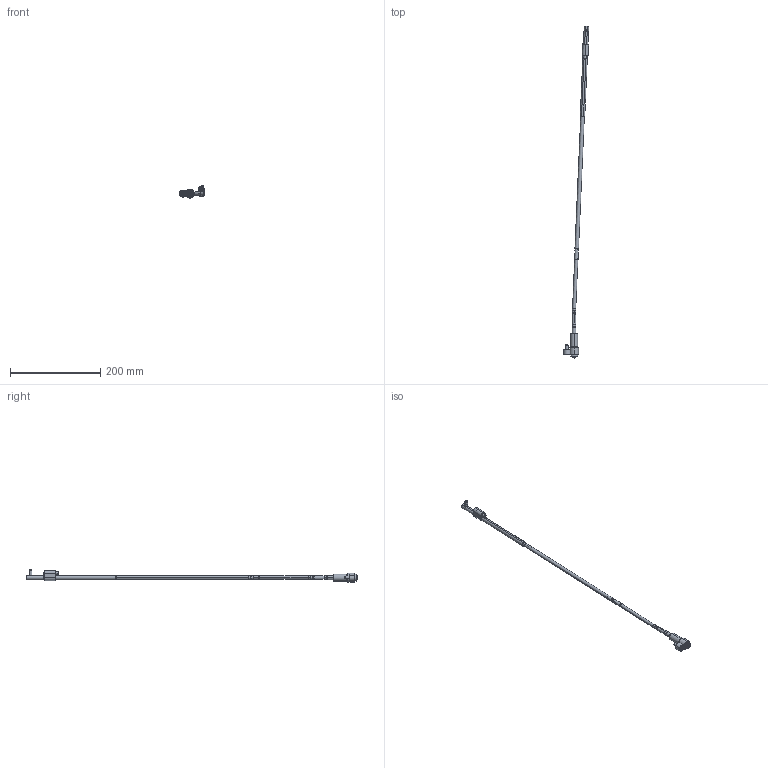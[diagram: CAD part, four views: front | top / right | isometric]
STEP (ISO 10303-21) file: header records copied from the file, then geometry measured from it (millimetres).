
FILE_DESCRIPTION (( 'STEP AP214' ), '1' );
FILE_NAME ('WL080100L-EJE 2,5°.STEP', '2021-03-19T15:24:21', ( '' ), ( '' ), 'SwSTEP 2.0', 'SolidWorks 2019', '' );
FILE_SCHEMA (( 'AUTOMOTIVE_DESIGN' ));
Length unit declared in the file: millimetre
Products named in the file (17): 1DIN912545_DIN 912 M5 x 50 --- 50C; Web-WL08-A1; WL080100-B_WL0800FF; 9DR2206-TOR; 1DIN912616_DIN 912 M6 x 16 --- 16C; WL080100-E; Web-WL08-F00.SLDPRT; WL080100-C; Web-WL08-A2; Web-WP08-1; WL080100-B1_WL0800FF-1; Web-WL08-F01; 3IMAN4X2-150_con sello; WL080100L-EJE 2,5°; WL080100-D; Web-WL08XX-A7_ON-WL080100-2,5; Web-WL08-A3
Assembly tree (16 placements, depth 3):
  WL080100L-EJE 2,5°
    Web-WP08-1
    Web-WL08XX-A7_ON-WL080100-2,5
    Web-WL08-A3
    Web-WL08-A2
    Web-WL08-A1
    WL080100-D
    WL080100-C
    WL080100-B_WL0800FF
      WL080100-B1_WL0800FF-1
      3IMAN4X2-150_con sello
    WL080100-E
    9DR2206-TOR
    Web-WL08-F00.SLDPRT
      Web-WL08-F01
      1DIN912545_DIN 912 M5 x 50 --- 50C
      1DIN912616_DIN 912 M6 x 16 --- 16C
Bounding box: 56.33 x 736.6 x 26.9 mm (x, y, z)
Volume: 57313.5 mm3; surface area: 33636 mm2
Topology: 15 solids, 15 shells, 424 faces, 888 edges, 516 vertices
Faces by surface type: plane 132, cylinder 128, cone 116, torus 48
Entity records: 13492 total; most frequent: DIRECTION 2218, CARTESIAN_POINT 2045, ORIENTED_EDGE 1756, AXIS2_PLACEMENT_3D 921, EDGE_CURVE 878, VERTEX_POINT 516, CIRCLE 476, EDGE_LOOP 468
